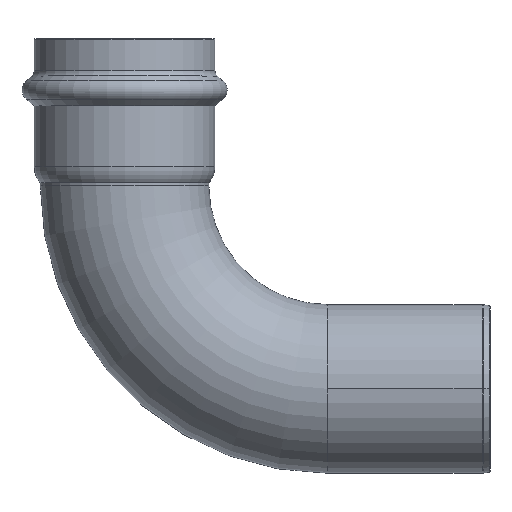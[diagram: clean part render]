
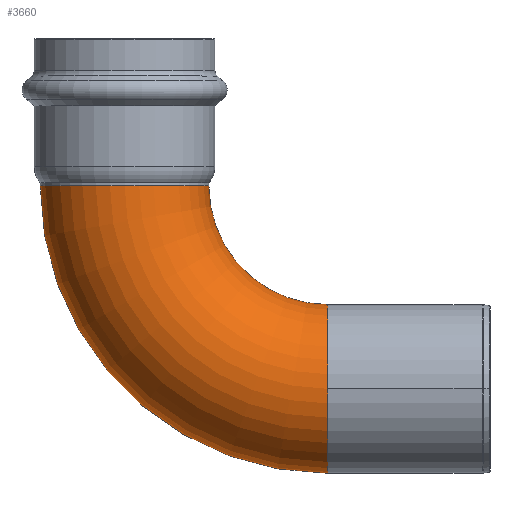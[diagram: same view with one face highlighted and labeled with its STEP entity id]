
A CAD part, top view. The second image highlights one B-rep face of the part: STEP entity #3660.
In plain terms, the highlighted toroidal (fillet/blend) face has major radius 65 mm and minor radius 27 mm.
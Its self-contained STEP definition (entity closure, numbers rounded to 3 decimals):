
#530=CARTESIAN_POINT('',(96.006,36.052,0.));
#540=DIRECTION('',(0.,0.,1.));
#550=DIRECTION('',(-1.,0.,0.));
#560=AXIS2_PLACEMENT_3D('',#530,#540,#550);
#570=TOROIDAL_SURFACE('',#560,65.,27.);
#580=CARTESIAN_POINT('',(96.006,-28.948,0.));
#590=DIRECTION('',(1.,0.,0.));
#600=DIRECTION('',(0.,1.,0.));
#610=AXIS2_PLACEMENT_3D('',#580,#590,#600);
#620=CIRCLE('',#610,27.);
#650=CARTESIAN_POINT('',(96.006,-1.948,0.));
#660=VERTEX_POINT('',#650);
#690=CARTESIAN_POINT('',(96.006,36.052,0.));
#700=DIRECTION('',(0.,0.,1.));
#710=DIRECTION('',(-1.,0.,0.));
#720=AXIS2_PLACEMENT_3D('',#690,#700,#710);
#730=CIRCLE('',#720,38.);
#740=CARTESIAN_POINT('',(58.006,36.052,0.));
#750=VERTEX_POINT('',#740);
#760=EDGE_CURVE('',#750,#660,#730,.T.);
#870=CARTESIAN_POINT('',(4.006,36.052,
0.));
#880=VERTEX_POINT('',#870);
#910=CARTESIAN_POINT('',(96.006,36.052,0.)
);
#920=DIRECTION('',(0.,0.,1.));
#930=DIRECTION('',(-1.,0.,0.));
#940=AXIS2_PLACEMENT_3D('',#910,#920,#930);
#950=CIRCLE('',#940,92.);
#960=CARTESIAN_POINT('',(96.006,-55.948,0.
));
#970=VERTEX_POINT('',#960);
#980=EDGE_CURVE('',#880,#970,#950,.T.);
#2580=CARTESIAN_POINT('',(96.006,-28.948,27.));
#2590=VERTEX_POINT('',#2580);
#2600=EDGE_CURVE('',#2590,#970,#620,.T.);
#3520=EDGE_CURVE('',#660,#2590,#620,.T.);
#3530=ORIENTED_EDGE('',*,*,#3520,.F.);
#3540=ORIENTED_EDGE('',*,*,#2600,.F.);
#3550=ORIENTED_EDGE('',*,*,#980,.T.);
#3560=CARTESIAN_POINT('',(31.006,36.052,0.));
#3570=DIRECTION('',(0.,-1.,0.));
#3580=DIRECTION('',(1.,0.,0.));
#3590=AXIS2_PLACEMENT_3D('',#3560,#3570,#3580);
#3600=CIRCLE('',#3590,27.);
#3610=EDGE_CURVE('',#750,#880,#3600,.T.);
#3620=ORIENTED_EDGE('',*,*,#3610,.T.);
#3630=ORIENTED_EDGE('',*,*,#760,.F.);
#3640=EDGE_LOOP('',(#3630,#3620,#3550,#3540,#3530));
#3650=FACE_OUTER_BOUND('',#3640,.T.);
#3660=ADVANCED_FACE('',(#3650),#570,.T.);
